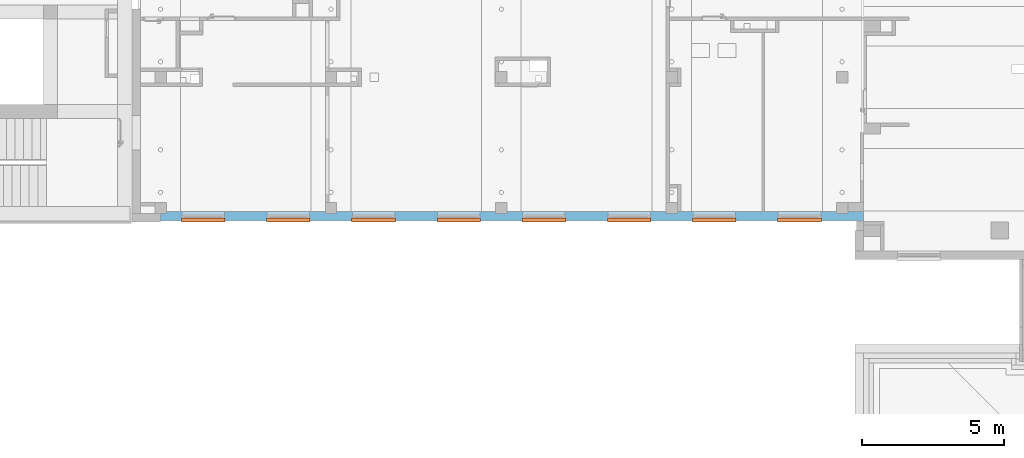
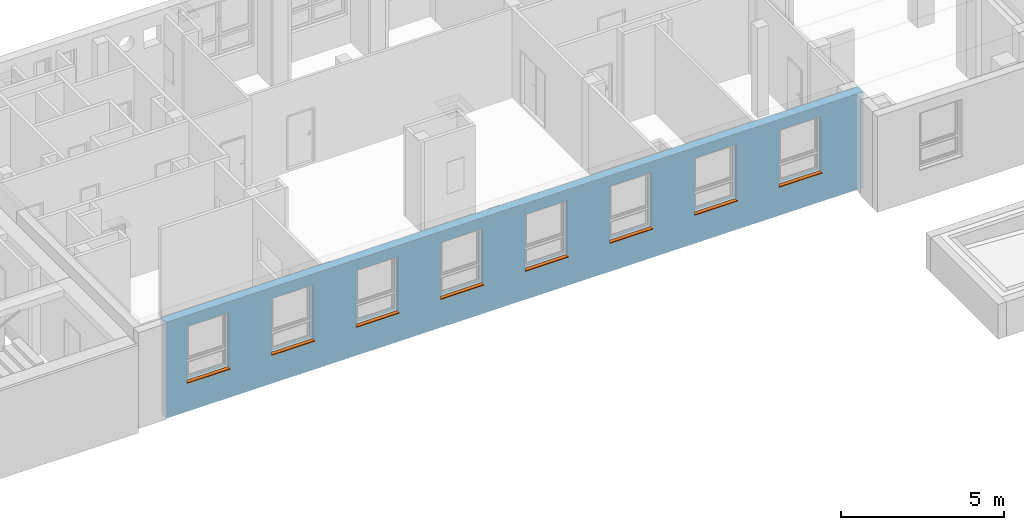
# One storey, part 35 of 50: 8 proxies, 8 openings, plus 1 element that does not belong to this part.
"""IFC4 building model written with IfcOpenShell, lengths in metres."""

from ifc_helpers import new_model, entity, si_unit, converted_unit, derived_unit, frame, frame_2d, origin, origin_with_axes, place, context, subcontext, project, spatial, polyline, rectangle, outline, extrude, clip, bounded_halfspace, faceted_brep, source, transform, mapped, material, layer, layer_set, layer_usage, element, fill, save


model = new_model("IFC4")

# Units and contexts
model_context = context("Model", 3, precision=1e-05, world=origin())
body_context = subcontext(model_context, "Body", "Model", "MODEL_VIEW")
ifc_project = project(units=[si_unit("LENGTHUNIT", "METRE"), si_unit("AREAUNIT", "SQUARE_METRE"), si_unit("VOLUMEUNIT", "CUBIC_METRE"), si_unit("MASSUNIT", "GRAM", prefix="KILO"), converted_unit("PLANEANGLEUNIT", "DEGREE", entity("IfcPlaneAngleMeasure", 0.0174532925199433), si_unit("PLANEANGLEUNIT", "RADIAN"), dimensions=[0, 0, 0, 0, 0, 0, 0]), derived_unit("THERMALTRANSMITTANCEUNIT", [(si_unit("POWERUNIT", "WATT"), 1), (si_unit("THERMODYNAMICTEMPERATUREUNIT", "KELVIN"), -1), (si_unit("LENGTHUNIT", "METRE"), -2)]), derived_unit("VOLUMETRICFLOWRATEUNIT", [(si_unit("LENGTHUNIT", "METRE"), 3), (converted_unit("TIMEUNIT", "hour", entity("IfcTimeMeasure", 3600.0), si_unit("TIMEUNIT", "SECOND"), dimensions=[0, 0, 1, 0, 0, 0, 0]), -1), (si_unit("LENGTHUNIT", "METRE"), -1)])], contexts=[model_context])

# Site, building, storey
site_placement = place(None, origin())
site = spatial("IfcSite", under=ifc_project, at=site_placement, Name="3. ASŘ", CompositionType="ELEMENT")
building_placement = place(site_placement, origin())
building = spatial("IfcBuilding", under=site, at=building_placement, Name="Pavilon C", CompositionType="ELEMENT")
storey_placement = place(building_placement, frame((0.0, 0.0, 3.6)))
storey = spatial("IfcBuildingStorey", under=building, at=storey_placement, Name="Půdorys 2.NP", CompositionType="ELEMENT", Elevation=3.6)

# Wall, openings, proxies
ifc_material_1 = material(Name="ZELEZOBETONOVÁ KCE")
ifc_layer = layer(ifc_material_1, 0.32)
ifc_layer_set = layer_set([ifc_layer])
ifc_layer_usage = layer_usage(ifc_layer_set, "AXIS2", "POSITIVE", 0.0)
wall_placement = place(storey_placement, frame((3.86535248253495e-15, 0.350000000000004, -0.1)))
wall = element("IfcWall", 1, at=wall_placement, inside=storey, material=ifc_layer_usage, Name="ZELEZOBETONOVÁ KCE", context=body_context, shape_type="Clipping", body=[
    clip(clip(clip(clip(clip(extrude(rectangle(XDim=24.75, YDim=0.32, at=frame_2d((12.375, 0.16), x_axis=(1.0, 0.0))), origin_with_axes(), (0.0, 0.0, 1.0), 3.6), bounded_halfspace(frame((0.100000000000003, 0.285, 3.35), z_axis=(0.0, 0.0, 1.0), x_axis=(1.0, 0.0, 0.0)), True, origin_with_axes(), polyline([(-2.27373675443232e-16, 0.25), (0.200000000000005, 0.25), (0.200000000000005, 0.32), (-2.27373675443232e-16, 0.32), (-2.27373675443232e-16, 0.25)]))), bounded_halfspace(frame((24.0, 0.284999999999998, 3.35), z_axis=(0.0, 0.0, 1.0), x_axis=(0.0, -1.0, 0.0)), True, origin_with_axes(), polyline([(23.8, 0.32), (23.8, 0.249999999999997), (24.2, 0.249999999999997), (24.2, 0.32), (23.8, 0.32)]))), bounded_halfspace(frame((12.0, 0.284999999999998, 3.35), z_axis=(0.0, 0.0, 1.0), x_axis=(0.0, -1.0, 0.0)), True, origin_with_axes(), polyline([(11.8, 0.32), (11.8, 0.249999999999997), (12.2, 0.249999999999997), (12.2, 0.32), (11.8, 0.32)]))), bounded_halfspace(frame((6.00000000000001, 0.284999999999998, 3.35), z_axis=(0.0, 0.0, 1.0), x_axis=(-1.0, 0.0, 0.0)), True, origin_with_axes(), polyline([(6.20000000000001, 0.32), (5.80000000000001, 0.32), (5.80000000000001, 0.249999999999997), (6.20000000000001, 0.249999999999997), (6.20000000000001, 0.32)]))), bounded_halfspace(frame((18.0, 0.284999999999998, 3.35), z_axis=(0.0, 0.0, 1.0), x_axis=(-1.0, 0.0, 0.0)), True, origin_with_axes(), polyline([(18.2, 0.32), (17.8, 0.32), (17.8, 0.249999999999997), (18.2, 0.249999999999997), (18.2, 0.32)]))),
])
opening_1_placement = place(wall_placement, frame((0.75, 0.0, 1.1), z_axis=(0.0, 1.0, 0.0), x_axis=(0.0, 0.0, 1.0)))
opening_1 = element("IfcOpeningElement", 2, at=opening_1_placement, cuts=wall, Name="Okenní otvor", ObjectType="Opening", context=body_context, shape_type="SweptSolid", body=[
    extrude(outline(polyline([(0.0, 1.5), (2.1, 1.5), (2.1, 0.0), (0.0, 0.0), (0.0, 1.5)])), origin_with_axes(), (0.0, 0.0, 1.0), 0.32),
])
opening_2_placement = place(wall_placement, frame((21.75, 0.0, 1.1), z_axis=(0.0, 1.0, 0.0), x_axis=(0.0, 0.0, 1.0)))
opening_2 = element("IfcOpeningElement", 3, at=opening_2_placement, cuts=wall, Name="Okenní otvor", ObjectType="Opening", context=body_context, shape_type="SweptSolid", body=[
    extrude(outline(polyline([(0.0, 1.5), (2.1, 1.5), (2.1, 0.0), (0.0, 0.0), (0.0, 1.5)])), origin_with_axes(), (0.0, 0.0, 1.0), 0.32),
])
opening_3_placement = place(wall_placement, frame((3.75, 0.0, 1.1), z_axis=(0.0, 1.0, 0.0), x_axis=(0.0, 0.0, 1.0)))
opening_3 = element("IfcOpeningElement", 4, at=opening_3_placement, cuts=wall, Name="Okenní otvor", ObjectType="Opening", context=body_context, shape_type="SweptSolid", body=[
    extrude(outline(polyline([(0.0, 1.5), (2.1, 1.5), (2.1, 0.0), (0.0, 0.0), (0.0, 1.5)])), origin_with_axes(), (0.0, 0.0, 1.0), 0.32),
])
opening_4_placement = place(wall_placement, frame((6.75, 0.0, 1.1), z_axis=(0.0, 1.0, 0.0), x_axis=(0.0, 0.0, 1.0)))
opening_4 = element("IfcOpeningElement", 5, at=opening_4_placement, cuts=wall, Name="Okenní otvor", ObjectType="Opening", context=body_context, shape_type="SweptSolid", body=[
    extrude(outline(polyline([(0.0, 1.5), (2.1, 1.5), (2.1, 0.0), (0.0, 0.0), (0.0, 1.5)])), origin_with_axes(), (0.0, 0.0, 1.0), 0.32),
])
opening_5_placement = place(wall_placement, frame((9.75, 0.0, 1.1), z_axis=(0.0, 1.0, 0.0), x_axis=(0.0, 0.0, 1.0)))
opening_5 = element("IfcOpeningElement", 6, at=opening_5_placement, cuts=wall, Name="Okenní otvor", ObjectType="Opening", context=body_context, shape_type="SweptSolid", body=[
    extrude(outline(polyline([(0.0, 1.5), (2.1, 1.5), (2.1, 0.0), (0.0, 0.0), (0.0, 1.5)])), origin_with_axes(), (0.0, 0.0, 1.0), 0.32),
])
opening_6_placement = place(wall_placement, frame((12.75, 0.0, 1.1), z_axis=(0.0, 1.0, 0.0), x_axis=(0.0, 0.0, 1.0)))
opening_6 = element("IfcOpeningElement", 7, at=opening_6_placement, cuts=wall, Name="Okenní otvor", ObjectType="Opening", context=body_context, shape_type="SweptSolid", body=[
    extrude(outline(polyline([(0.0, 1.5), (2.1, 1.5), (2.1, 0.0), (0.0, 0.0), (0.0, 1.5)])), origin_with_axes(), (0.0, 0.0, 1.0), 0.32),
])
opening_7_placement = place(wall_placement, frame((15.75, 0.0, 1.1), z_axis=(0.0, 1.0, 0.0), x_axis=(0.0, 0.0, 1.0)))
opening_7 = element("IfcOpeningElement", 8, at=opening_7_placement, cuts=wall, Name="Okenní otvor", ObjectType="Opening", context=body_context, shape_type="SweptSolid", body=[
    extrude(outline(polyline([(0.0, 1.5), (2.1, 1.5), (2.1, 0.0), (0.0, 0.0), (0.0, 1.5)])), origin_with_axes(), (0.0, 0.0, 1.0), 0.32),
])
opening_8_placement = place(wall_placement, frame((18.75, 0.0, 1.1), z_axis=(0.0, 1.0, 0.0), x_axis=(0.0, 0.0, 1.0)))
opening_8 = element("IfcOpeningElement", 9, at=opening_8_placement, cuts=wall, Name="Okenní otvor", ObjectType="Opening", context=body_context, shape_type="SweptSolid", body=[
    extrude(outline(polyline([(0.0, 1.5), (2.1, 1.5), (2.1, 0.0), (0.0, 0.0), (0.0, 1.5)])), origin_with_axes(), (0.0, 0.0, 1.0), 0.32),
])
ifc_material_2 = material(Name="PLECH")
shared_shape_1 = source(origin_with_axes(), body_context, "Body", "Brep", [
    faceted_brep([(0.0, 0.0, 0.0), (0.0, 0.1, 0.0), (0.0, 0.1, 0.005), (0.0, 0.0, 0.005), (1.5, 0.0, 0.0), (1.5, 0.0, 0.005), (1.5, 0.1, 0.005), (1.5, 0.1, 0.0), (-0.02, 0.0, 0.0), (-0.02, -0.035, 0.0), (1.52, -0.035, 0.0), (1.52, 0.0, 0.0), (1.52, 0.0, 0.005), (1.52, -0.04, 0.005), (-0.02, -0.04, 0.005), (-0.02, 0.0, 0.005), (-0.02, -0.04, -0.025), (-0.02, -0.035, -0.025), (1.52, -0.035, -0.025), (1.52, -0.04, -0.025)], [[[0, 1, 2, 3]], [[4, 5, 6, 7]], [[1, 0, 8, 9, 10, 11, 4, 7]], [[2, 1, 7, 6]], [[3, 2, 6, 5, 12, 13, 14, 15]], [[8, 15, 14, 16, 17, 9]], [[11, 10, 18, 19, 13, 12]], [[15, 8, 0, 3]], [[5, 4, 11, 12]], [[16, 14, 13, 19]], [[17, 16, 19, 18]], [[9, 17, 18, 10]]], orient=[[False], [False], [False], [False], [False], [False], [False], [False], [False], [False], [False], [False]]),
    faceted_brep([(-0.02, 0.0, 0.0), (-0.02, 0.1, 0.0), (-0.02, 0.1, 0.005), (-0.02, 0.0, 0.005), (0.0, 0.0, 0.0), (0.0, 0.0, 0.005), (0.0, 0.1, 0.005), (0.0, 0.1, 0.0)], [[[0, 1, 2, 3]], [[4, 5, 6, 7]], [[1, 0, 4, 7]], [[2, 1, 7, 6]], [[3, 2, 6, 5]], [[0, 3, 5, 4]]], orient=[[False], [False], [False], [False], [False], [False]]),
    faceted_brep([(1.5, 0.0, 0.0), (1.5, 0.1, 0.0), (1.5, 0.1, 0.005), (1.5, 0.0, 0.005), (1.52, 0.0, 0.0), (1.52, 0.0, 0.005), (1.52, 0.1, 0.005), (1.52, 0.1, 0.0)], [[[0, 1, 2, 3]], [[4, 5, 6, 7]], [[1, 0, 4, 7]], [[2, 1, 7, 6]], [[3, 2, 6, 5]], [[0, 3, 5, 4]]], orient=[[False], [False], [False], [False], [False], [False]]),
])
proxy_1_placement = place(opening_1_placement, frame((0.0, 0.0, 0.0), z_axis=(1.0, 0.0, 0.0), x_axis=(0.0, 1.0, 0.0)))
proxy_1 = element("IfcBuildingElementProxy", 10, at=proxy_1_placement, inside=storey, material=ifc_material_2, Name="Parapet vnější", context=body_context, shape_type="MappedRepresentation", body=[
    mapped(shared_shape_1, transform((0.0, 0.0, 0.0), x_axis=(1.0, 0.0, 0.0), y_axis=(0.0, 1.0, 0.0), z_axis=(0.0, 0.0, 1.0), scale=1.0)),
])
fill(opening_1, proxy_1)
ifc_material_3 = material(Name="PLECH")
shared_shape_2 = source(origin_with_axes(), body_context, "Body", "Brep", [
    faceted_brep([(0.0, 0.0, 0.0), (0.0, 0.1, 0.0), (0.0, 0.1, 0.005), (0.0, 0.0, 0.005), (1.5, 0.0, 0.0), (1.5, 0.0, 0.005), (1.5, 0.1, 0.005), (1.5, 0.1, 0.0), (-0.02, 0.0, 0.0), (-0.02, -0.035, 0.0), (1.52, -0.035, 0.0), (1.52, 0.0, 0.0), (1.52, 0.0, 0.005), (1.52, -0.04, 0.005), (-0.02, -0.04, 0.005), (-0.02, 0.0, 0.005), (-0.02, -0.04, -0.025), (-0.02, -0.035, -0.025), (1.52, -0.035, -0.025), (1.52, -0.04, -0.025)], [[[0, 1, 2, 3]], [[4, 5, 6, 7]], [[1, 0, 8, 9, 10, 11, 4, 7]], [[2, 1, 7, 6]], [[3, 2, 6, 5, 12, 13, 14, 15]], [[8, 15, 14, 16, 17, 9]], [[11, 10, 18, 19, 13, 12]], [[15, 8, 0, 3]], [[5, 4, 11, 12]], [[16, 14, 13, 19]], [[17, 16, 19, 18]], [[9, 17, 18, 10]]], orient=[[False], [False], [False], [False], [False], [False], [False], [False], [False], [False], [False], [False]]),
    faceted_brep([(-0.02, 0.0, 0.0), (-0.02, 0.1, 0.0), (-0.02, 0.1, 0.005), (-0.02, 0.0, 0.005), (0.0, 0.0, 0.0), (0.0, 0.0, 0.005), (0.0, 0.1, 0.005), (0.0, 0.1, 0.0)], [[[0, 1, 2, 3]], [[4, 5, 6, 7]], [[1, 0, 4, 7]], [[2, 1, 7, 6]], [[3, 2, 6, 5]], [[0, 3, 5, 4]]], orient=[[False], [False], [False], [False], [False], [False]]),
    faceted_brep([(1.5, 0.0, 0.0), (1.5, 0.1, 0.0), (1.5, 0.1, 0.005), (1.5, 0.0, 0.005), (1.52, 0.0, 0.0), (1.52, 0.0, 0.005), (1.52, 0.1, 0.005), (1.52, 0.1, 0.0)], [[[0, 1, 2, 3]], [[4, 5, 6, 7]], [[1, 0, 4, 7]], [[2, 1, 7, 6]], [[3, 2, 6, 5]], [[0, 3, 5, 4]]], orient=[[False], [False], [False], [False], [False], [False]]),
])
proxy_2_placement = place(opening_2_placement, frame((0.0, 0.0, 0.0), z_axis=(1.0, 0.0, 0.0), x_axis=(0.0, 1.0, 0.0)))
proxy_2 = element("IfcBuildingElementProxy", 11, at=proxy_2_placement, inside=storey, material=ifc_material_3, Name="Parapet vnější", context=body_context, shape_type="MappedRepresentation", body=[
    mapped(shared_shape_2, transform((0.0, 0.0, 0.0), x_axis=(1.0, 0.0, 0.0), y_axis=(0.0, 1.0, 0.0), z_axis=(0.0, 0.0, 1.0), scale=1.0)),
])
fill(opening_2, proxy_2)
ifc_material_4 = material(Name="PLECH")
shared_shape_3 = source(origin_with_axes(), body_context, "Body", "Brep", [
    faceted_brep([(0.0, 0.0, 0.0), (0.0, 0.1, 0.0), (0.0, 0.1, 0.005), (0.0, 0.0, 0.005), (1.5, 0.0, 0.0), (1.5, 0.0, 0.005), (1.5, 0.1, 0.005), (1.5, 0.1, 0.0), (-0.02, 0.0, 0.0), (-0.02, -0.035, 0.0), (1.52, -0.035, 0.0), (1.52, 0.0, 0.0), (1.52, 0.0, 0.005), (1.52, -0.04, 0.005), (-0.02, -0.04, 0.005), (-0.02, 0.0, 0.005), (-0.02, -0.04, -0.025), (-0.02, -0.035, -0.025), (1.52, -0.035, -0.025), (1.52, -0.04, -0.025)], [[[0, 1, 2, 3]], [[4, 5, 6, 7]], [[1, 0, 8, 9, 10, 11, 4, 7]], [[2, 1, 7, 6]], [[3, 2, 6, 5, 12, 13, 14, 15]], [[8, 15, 14, 16, 17, 9]], [[11, 10, 18, 19, 13, 12]], [[15, 8, 0, 3]], [[5, 4, 11, 12]], [[16, 14, 13, 19]], [[17, 16, 19, 18]], [[9, 17, 18, 10]]], orient=[[False], [False], [False], [False], [False], [False], [False], [False], [False], [False], [False], [False]]),
    faceted_brep([(-0.02, 0.0, 0.0), (-0.02, 0.1, 0.0), (-0.02, 0.1, 0.005), (-0.02, 0.0, 0.005), (0.0, 0.0, 0.0), (0.0, 0.0, 0.005), (0.0, 0.1, 0.005), (0.0, 0.1, 0.0)], [[[0, 1, 2, 3]], [[4, 5, 6, 7]], [[1, 0, 4, 7]], [[2, 1, 7, 6]], [[3, 2, 6, 5]], [[0, 3, 5, 4]]], orient=[[False], [False], [False], [False], [False], [False]]),
    faceted_brep([(1.5, 0.0, 0.0), (1.5, 0.1, 0.0), (1.5, 0.1, 0.005), (1.5, 0.0, 0.005), (1.52, 0.0, 0.0), (1.52, 0.0, 0.005), (1.52, 0.1, 0.005), (1.52, 0.1, 0.0)], [[[0, 1, 2, 3]], [[4, 5, 6, 7]], [[1, 0, 4, 7]], [[2, 1, 7, 6]], [[3, 2, 6, 5]], [[0, 3, 5, 4]]], orient=[[False], [False], [False], [False], [False], [False]]),
])
proxy_3_placement = place(opening_3_placement, frame((0.0, 0.0, 0.0), z_axis=(1.0, 0.0, 0.0), x_axis=(0.0, 1.0, 0.0)))
proxy_3 = element("IfcBuildingElementProxy", 12, at=proxy_3_placement, inside=storey, material=ifc_material_4, Name="Parapet vnější", context=body_context, shape_type="MappedRepresentation", body=[
    mapped(shared_shape_3, transform((0.0, 0.0, 0.0), x_axis=(1.0, 0.0, 0.0), y_axis=(0.0, 1.0, 0.0), z_axis=(0.0, 0.0, 1.0), scale=1.0)),
])
fill(opening_3, proxy_3)
ifc_material_5 = material(Name="PLECH")
shared_shape_4 = source(origin_with_axes(), body_context, "Body", "Brep", [
    faceted_brep([(0.0, 0.0, 0.0), (0.0, 0.1, 0.0), (0.0, 0.1, 0.005), (0.0, 0.0, 0.005), (1.5, 0.0, 0.0), (1.5, 0.0, 0.005), (1.5, 0.1, 0.005), (1.5, 0.1, 0.0), (-0.02, 0.0, 0.0), (-0.02, -0.035, 0.0), (1.52, -0.035, 0.0), (1.52, 0.0, 0.0), (1.52, 0.0, 0.005), (1.52, -0.04, 0.005), (-0.02, -0.04, 0.005), (-0.02, 0.0, 0.005), (-0.02, -0.04, -0.025), (-0.02, -0.035, -0.025), (1.52, -0.035, -0.025), (1.52, -0.04, -0.025)], [[[0, 1, 2, 3]], [[4, 5, 6, 7]], [[1, 0, 8, 9, 10, 11, 4, 7]], [[2, 1, 7, 6]], [[3, 2, 6, 5, 12, 13, 14, 15]], [[8, 15, 14, 16, 17, 9]], [[11, 10, 18, 19, 13, 12]], [[15, 8, 0, 3]], [[5, 4, 11, 12]], [[16, 14, 13, 19]], [[17, 16, 19, 18]], [[9, 17, 18, 10]]], orient=[[False], [False], [False], [False], [False], [False], [False], [False], [False], [False], [False], [False]]),
    faceted_brep([(-0.02, 0.0, 0.0), (-0.02, 0.1, 0.0), (-0.02, 0.1, 0.005), (-0.02, 0.0, 0.005), (0.0, 0.0, 0.0), (0.0, 0.0, 0.005), (0.0, 0.1, 0.005), (0.0, 0.1, 0.0)], [[[0, 1, 2, 3]], [[4, 5, 6, 7]], [[1, 0, 4, 7]], [[2, 1, 7, 6]], [[3, 2, 6, 5]], [[0, 3, 5, 4]]], orient=[[False], [False], [False], [False], [False], [False]]),
    faceted_brep([(1.5, 0.0, 0.0), (1.5, 0.1, 0.0), (1.5, 0.1, 0.005), (1.5, 0.0, 0.005), (1.52, 0.0, 0.0), (1.52, 0.0, 0.005), (1.52, 0.1, 0.005), (1.52, 0.1, 0.0)], [[[0, 1, 2, 3]], [[4, 5, 6, 7]], [[1, 0, 4, 7]], [[2, 1, 7, 6]], [[3, 2, 6, 5]], [[0, 3, 5, 4]]], orient=[[False], [False], [False], [False], [False], [False]]),
])
proxy_4_placement = place(opening_4_placement, frame((0.0, 0.0, 0.0), z_axis=(1.0, 0.0, 0.0), x_axis=(0.0, 1.0, 0.0)))
proxy_4 = element("IfcBuildingElementProxy", 13, at=proxy_4_placement, inside=storey, material=ifc_material_5, Name="Parapet vnější", context=body_context, shape_type="MappedRepresentation", body=[
    mapped(shared_shape_4, transform((0.0, 0.0, 0.0), x_axis=(1.0, 0.0, 0.0), y_axis=(0.0, 1.0, 0.0), z_axis=(0.0, 0.0, 1.0), scale=1.0)),
])
fill(opening_4, proxy_4)
ifc_material_6 = material(Name="PLECH")
shared_shape_5 = source(origin_with_axes(), body_context, "Body", "Brep", [
    faceted_brep([(0.0, 0.0, 0.0), (0.0, 0.1, 0.0), (0.0, 0.1, 0.005), (0.0, 0.0, 0.005), (1.5, 0.0, 0.0), (1.5, 0.0, 0.005), (1.5, 0.1, 0.005), (1.5, 0.1, 0.0), (-0.02, 0.0, 0.0), (-0.02, -0.035, 0.0), (1.52, -0.035, 0.0), (1.52, 0.0, 0.0), (1.52, 0.0, 0.005), (1.52, -0.04, 0.005), (-0.02, -0.04, 0.005), (-0.02, 0.0, 0.005), (-0.02, -0.04, -0.025), (-0.02, -0.035, -0.025), (1.52, -0.035, -0.025), (1.52, -0.04, -0.025)], [[[0, 1, 2, 3]], [[4, 5, 6, 7]], [[1, 0, 8, 9, 10, 11, 4, 7]], [[2, 1, 7, 6]], [[3, 2, 6, 5, 12, 13, 14, 15]], [[8, 15, 14, 16, 17, 9]], [[11, 10, 18, 19, 13, 12]], [[15, 8, 0, 3]], [[5, 4, 11, 12]], [[16, 14, 13, 19]], [[17, 16, 19, 18]], [[9, 17, 18, 10]]], orient=[[False], [False], [False], [False], [False], [False], [False], [False], [False], [False], [False], [False]]),
    faceted_brep([(-0.02, 0.0, 0.0), (-0.02, 0.1, 0.0), (-0.02, 0.1, 0.005), (-0.02, 0.0, 0.005), (0.0, 0.0, 0.0), (0.0, 0.0, 0.005), (0.0, 0.1, 0.005), (0.0, 0.1, 0.0)], [[[0, 1, 2, 3]], [[4, 5, 6, 7]], [[1, 0, 4, 7]], [[2, 1, 7, 6]], [[3, 2, 6, 5]], [[0, 3, 5, 4]]], orient=[[False], [False], [False], [False], [False], [False]]),
    faceted_brep([(1.5, 0.0, 0.0), (1.5, 0.1, 0.0), (1.5, 0.1, 0.005), (1.5, 0.0, 0.005), (1.52, 0.0, 0.0), (1.52, 0.0, 0.005), (1.52, 0.1, 0.005), (1.52, 0.1, 0.0)], [[[0, 1, 2, 3]], [[4, 5, 6, 7]], [[1, 0, 4, 7]], [[2, 1, 7, 6]], [[3, 2, 6, 5]], [[0, 3, 5, 4]]], orient=[[False], [False], [False], [False], [False], [False]]),
])
proxy_5_placement = place(opening_5_placement, frame((0.0, 0.0, 0.0), z_axis=(1.0, 0.0, 0.0), x_axis=(0.0, 1.0, 0.0)))
proxy_5 = element("IfcBuildingElementProxy", 14, at=proxy_5_placement, inside=storey, material=ifc_material_6, Name="Parapet vnější", context=body_context, shape_type="MappedRepresentation", body=[
    mapped(shared_shape_5, transform((0.0, 0.0, 0.0), x_axis=(1.0, 0.0, 0.0), y_axis=(0.0, 1.0, 0.0), z_axis=(0.0, 0.0, 1.0), scale=1.0)),
])
fill(opening_5, proxy_5)
ifc_material_7 = material(Name="PLECH")
shared_shape_6 = source(origin_with_axes(), body_context, "Body", "Brep", [
    faceted_brep([(0.0, 0.0, 0.0), (0.0, 0.1, 0.0), (0.0, 0.1, 0.005), (0.0, 0.0, 0.005), (1.5, 0.0, 0.0), (1.5, 0.0, 0.005), (1.5, 0.1, 0.005), (1.5, 0.1, 0.0), (-0.02, 0.0, 0.0), (-0.02, -0.035, 0.0), (1.52, -0.035, 0.0), (1.52, 0.0, 0.0), (1.52, 0.0, 0.005), (1.52, -0.04, 0.005), (-0.02, -0.04, 0.005), (-0.02, 0.0, 0.005), (-0.02, -0.04, -0.025), (-0.02, -0.035, -0.025), (1.52, -0.035, -0.025), (1.52, -0.04, -0.025)], [[[0, 1, 2, 3]], [[4, 5, 6, 7]], [[1, 0, 8, 9, 10, 11, 4, 7]], [[2, 1, 7, 6]], [[3, 2, 6, 5, 12, 13, 14, 15]], [[8, 15, 14, 16, 17, 9]], [[11, 10, 18, 19, 13, 12]], [[15, 8, 0, 3]], [[5, 4, 11, 12]], [[16, 14, 13, 19]], [[17, 16, 19, 18]], [[9, 17, 18, 10]]], orient=[[False], [False], [False], [False], [False], [False], [False], [False], [False], [False], [False], [False]]),
    faceted_brep([(-0.02, 0.0, 0.0), (-0.02, 0.1, 0.0), (-0.02, 0.1, 0.005), (-0.02, 0.0, 0.005), (0.0, 0.0, 0.0), (0.0, 0.0, 0.005), (0.0, 0.1, 0.005), (0.0, 0.1, 0.0)], [[[0, 1, 2, 3]], [[4, 5, 6, 7]], [[1, 0, 4, 7]], [[2, 1, 7, 6]], [[3, 2, 6, 5]], [[0, 3, 5, 4]]], orient=[[False], [False], [False], [False], [False], [False]]),
    faceted_brep([(1.5, 0.0, 0.0), (1.5, 0.1, 0.0), (1.5, 0.1, 0.005), (1.5, 0.0, 0.005), (1.52, 0.0, 0.0), (1.52, 0.0, 0.005), (1.52, 0.1, 0.005), (1.52, 0.1, 0.0)], [[[0, 1, 2, 3]], [[4, 5, 6, 7]], [[1, 0, 4, 7]], [[2, 1, 7, 6]], [[3, 2, 6, 5]], [[0, 3, 5, 4]]], orient=[[False], [False], [False], [False], [False], [False]]),
])
proxy_6_placement = place(opening_6_placement, frame((0.0, 0.0, 0.0), z_axis=(1.0, 0.0, 0.0), x_axis=(0.0, 1.0, 0.0)))
proxy_6 = element("IfcBuildingElementProxy", 15, at=proxy_6_placement, inside=storey, material=ifc_material_7, Name="Parapet vnější", context=body_context, shape_type="MappedRepresentation", body=[
    mapped(shared_shape_6, transform((0.0, 0.0, 0.0), x_axis=(1.0, 0.0, 0.0), y_axis=(0.0, 1.0, 0.0), z_axis=(0.0, 0.0, 1.0), scale=1.0)),
])
fill(opening_6, proxy_6)
ifc_material_8 = material(Name="PLECH")
shared_shape_7 = source(origin_with_axes(), body_context, "Body", "Brep", [
    faceted_brep([(0.0, 0.0, 0.0), (0.0, 0.1, 0.0), (0.0, 0.1, 0.005), (0.0, 0.0, 0.005), (1.5, 0.0, 0.0), (1.5, 0.0, 0.005), (1.5, 0.1, 0.005), (1.5, 0.1, 0.0), (-0.02, 0.0, 0.0), (-0.02, -0.035, 0.0), (1.52, -0.035, 0.0), (1.52, 0.0, 0.0), (1.52, 0.0, 0.005), (1.52, -0.04, 0.005), (-0.02, -0.04, 0.005), (-0.02, 0.0, 0.005), (-0.02, -0.04, -0.025), (-0.02, -0.035, -0.025), (1.52, -0.035, -0.025), (1.52, -0.04, -0.025)], [[[0, 1, 2, 3]], [[4, 5, 6, 7]], [[1, 0, 8, 9, 10, 11, 4, 7]], [[2, 1, 7, 6]], [[3, 2, 6, 5, 12, 13, 14, 15]], [[8, 15, 14, 16, 17, 9]], [[11, 10, 18, 19, 13, 12]], [[15, 8, 0, 3]], [[5, 4, 11, 12]], [[16, 14, 13, 19]], [[17, 16, 19, 18]], [[9, 17, 18, 10]]], orient=[[False], [False], [False], [False], [False], [False], [False], [False], [False], [False], [False], [False]]),
    faceted_brep([(-0.02, 0.0, 0.0), (-0.02, 0.1, 0.0), (-0.02, 0.1, 0.005), (-0.02, 0.0, 0.005), (0.0, 0.0, 0.0), (0.0, 0.0, 0.005), (0.0, 0.1, 0.005), (0.0, 0.1, 0.0)], [[[0, 1, 2, 3]], [[4, 5, 6, 7]], [[1, 0, 4, 7]], [[2, 1, 7, 6]], [[3, 2, 6, 5]], [[0, 3, 5, 4]]], orient=[[False], [False], [False], [False], [False], [False]]),
    faceted_brep([(1.5, 0.0, 0.0), (1.5, 0.1, 0.0), (1.5, 0.1, 0.005), (1.5, 0.0, 0.005), (1.52, 0.0, 0.0), (1.52, 0.0, 0.005), (1.52, 0.1, 0.005), (1.52, 0.1, 0.0)], [[[0, 1, 2, 3]], [[4, 5, 6, 7]], [[1, 0, 4, 7]], [[2, 1, 7, 6]], [[3, 2, 6, 5]], [[0, 3, 5, 4]]], orient=[[False], [False], [False], [False], [False], [False]]),
])
proxy_7_placement = place(opening_7_placement, frame((0.0, 0.0, 0.0), z_axis=(1.0, 0.0, 0.0), x_axis=(0.0, 1.0, 0.0)))
proxy_7 = element("IfcBuildingElementProxy", 16, at=proxy_7_placement, inside=storey, material=ifc_material_8, Name="Parapet vnější", context=body_context, shape_type="MappedRepresentation", body=[
    mapped(shared_shape_7, transform((0.0, 0.0, 0.0), x_axis=(1.0, 0.0, 0.0), y_axis=(0.0, 1.0, 0.0), z_axis=(0.0, 0.0, 1.0), scale=1.0)),
])
fill(opening_7, proxy_7)
ifc_material_9 = material(Name="PLECH")
shared_shape_8 = source(origin_with_axes(), body_context, "Body", "Brep", [
    faceted_brep([(0.0, 0.0, 0.0), (0.0, 0.1, 0.0), (0.0, 0.1, 0.005), (0.0, 0.0, 0.005), (1.5, 0.0, 0.0), (1.5, 0.0, 0.005), (1.5, 0.1, 0.005), (1.5, 0.1, 0.0), (-0.02, 0.0, 0.0), (-0.02, -0.035, 0.0), (1.52, -0.035, 0.0), (1.52, 0.0, 0.0), (1.52, 0.0, 0.005), (1.52, -0.04, 0.005), (-0.02, -0.04, 0.005), (-0.02, 0.0, 0.005), (-0.02, -0.04, -0.025), (-0.02, -0.035, -0.025), (1.52, -0.035, -0.025), (1.52, -0.04, -0.025)], [[[0, 1, 2, 3]], [[4, 5, 6, 7]], [[1, 0, 8, 9, 10, 11, 4, 7]], [[2, 1, 7, 6]], [[3, 2, 6, 5, 12, 13, 14, 15]], [[8, 15, 14, 16, 17, 9]], [[11, 10, 18, 19, 13, 12]], [[15, 8, 0, 3]], [[5, 4, 11, 12]], [[16, 14, 13, 19]], [[17, 16, 19, 18]], [[9, 17, 18, 10]]], orient=[[False], [False], [False], [False], [False], [False], [False], [False], [False], [False], [False], [False]]),
    faceted_brep([(-0.02, 0.0, 0.0), (-0.02, 0.1, 0.0), (-0.02, 0.1, 0.005), (-0.02, 0.0, 0.005), (0.0, 0.0, 0.0), (0.0, 0.0, 0.005), (0.0, 0.1, 0.005), (0.0, 0.1, 0.0)], [[[0, 1, 2, 3]], [[4, 5, 6, 7]], [[1, 0, 4, 7]], [[2, 1, 7, 6]], [[3, 2, 6, 5]], [[0, 3, 5, 4]]], orient=[[False], [False], [False], [False], [False], [False]]),
    faceted_brep([(1.5, 0.0, 0.0), (1.5, 0.1, 0.0), (1.5, 0.1, 0.005), (1.5, 0.0, 0.005), (1.52, 0.0, 0.0), (1.52, 0.0, 0.005), (1.52, 0.1, 0.005), (1.52, 0.1, 0.0)], [[[0, 1, 2, 3]], [[4, 5, 6, 7]], [[1, 0, 4, 7]], [[2, 1, 7, 6]], [[3, 2, 6, 5]], [[0, 3, 5, 4]]], orient=[[False], [False], [False], [False], [False], [False]]),
])
proxy_8_placement = place(opening_8_placement, frame((0.0, 0.0, 0.0), z_axis=(1.0, 0.0, 0.0), x_axis=(0.0, 1.0, 0.0)))
proxy_8 = element("IfcBuildingElementProxy", 17, at=proxy_8_placement, inside=storey, material=ifc_material_9, Name="Parapet vnější", context=body_context, shape_type="MappedRepresentation", body=[
    mapped(shared_shape_8, transform((0.0, 0.0, 0.0), x_axis=(1.0, 0.0, 0.0), y_axis=(0.0, 1.0, 0.0), z_axis=(0.0, 0.0, 1.0), scale=1.0)),
])
fill(opening_8, proxy_8)

save(model, "model.ifc")
